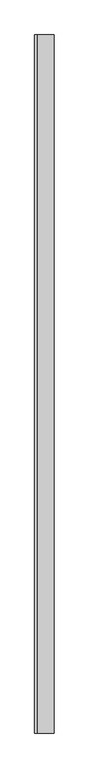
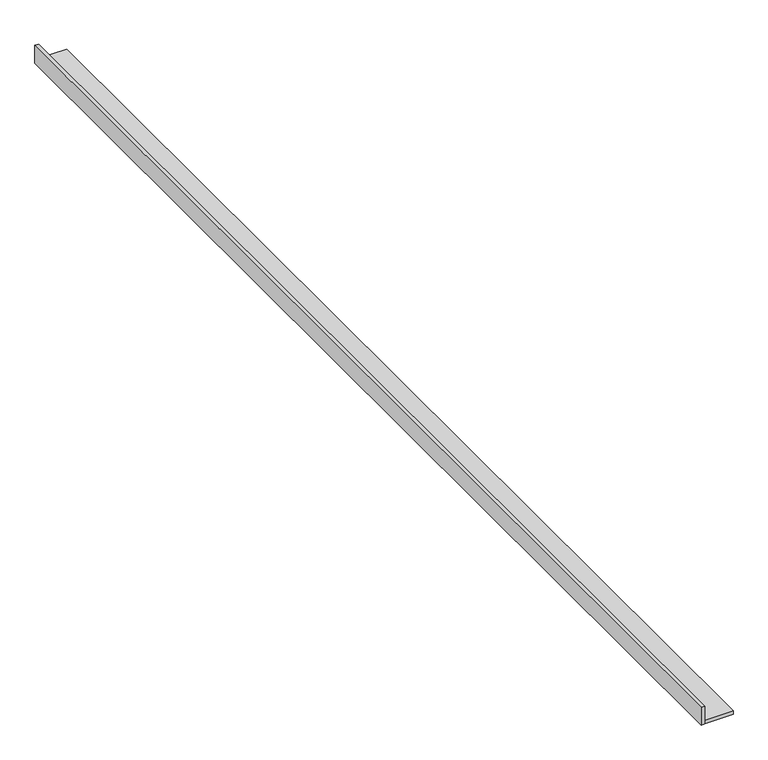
"""IFC4 building model written with IfcOpenShell, lengths in millimetres: proxy geometry, Wall-Panel-Kirei-Pulse_Fins : Pulse_1.75."""

from ifc_helpers import new_model, si_unit, origin, origin_with_axes, place, context, project, spatial, polyline, outline, extrude, source, transform, mapped, element, save


def specialty_equipment_b474212d(model_context):
    return source(origin(), model_context, "Body", "SweptSolid", [
        extrude(outline(polyline([(-600.5710938, 1371.6), (-600.5710938, -1371.6), (-609.6, -1371.6), (-609.6, 1371.6), (-600.5710938, 1371.6)])), origin_with_axes(), (0.0, 0.0, 1.0), 44.45),
        extrude(outline(polyline([(-533.5984375, 1371.6), (-533.5984375, -1371.6), (-600.5710937, -1371.6), (-600.5710937, 1371.6), (-533.5984375, 1371.6)])), origin_with_axes(), (0.0, 0.0, 1.0), 9.0289062),
    ])


if __name__ == "__main__":
    model = new_model("IFC4")
    model_context = context("Model", 3, world=origin())
    ifc_project = project(units=[si_unit("LENGTHUNIT", "METRE", prefix="MILLI")], contexts=[model_context])
    site = spatial("IfcSite", under=ifc_project)
    building = spatial("IfcBuilding", under=site)
    placement = place(None, origin())
    specialty_equipment_shape = specialty_equipment_b474212d(model_context)
    element("IfcBuildingElementProxy", 1, Name="Wall-Panel-Kirei-Pulse_Fins : Pulse_1.75", ObjectType="Wall-Panel-Kirei-Pulse_Fins : Pulse_1.75", at=placement, inside=building, context=model_context, shape_type="MappedRepresentation", body=[
        mapped(specialty_equipment_shape, transform((0.0, 0.0, 0.0), x_axis=(1.0, 0.0, 0.0), y_axis=(0.0, 1.0, 0.0), z_axis=(0.0, 0.0, 1.0))),
    ])
    save(model, "model.ifc")
